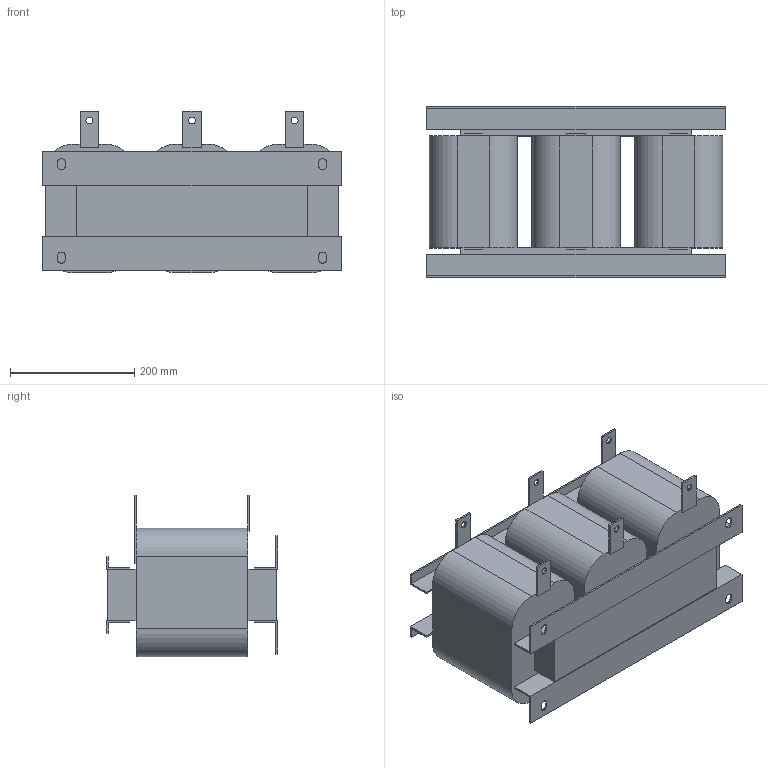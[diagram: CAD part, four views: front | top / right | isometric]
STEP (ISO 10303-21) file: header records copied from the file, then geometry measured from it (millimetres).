
FILE_DESCRIPTION(/* description */ (''),/* implementation_level */ '2;1');
FILE_NAME(/* name */ 'ACO-0150-T6-4.stp',/* time_stamp */ '2025-01-28T15:36:20+04:00',/* author */ ('Александр (огранич)'),/* organization */ (''),/* preprocessor_version */ 'ST-DEVELOPER v19.2',/* originating_system */ 'Autodesk Inventor 2024',/* authorisation */ '');
FILE_SCHEMA (('AUTOMOTIVE_DESIGN { 1 0 10303 214 3 1 1 }'));
Length unit declared in the file: millimetre
Products named in the file (1): ACO-0015-T4-4
Bounding box: 480 x 275 x 260 mm (x, y, z)
Volume: 18208208.2 mm3; surface area: 801271.6 mm2
Topology: 1 solids, 1 shells, 136 faces, 378 edges, 240 vertices
Faces by surface type: plane 110, cylinder 26
Full cylindrical faces by diameter (mm): 11 x6
Entity records: 4357 total; most frequent: ORIENTED_EDGE 756, CARTESIAN_POINT 755, DIRECTION 704, EDGE_CURVE 378, LINE 326, VECTOR 326, VERTEX_POINT 240, AXIS2_PLACEMENT_3D 189
